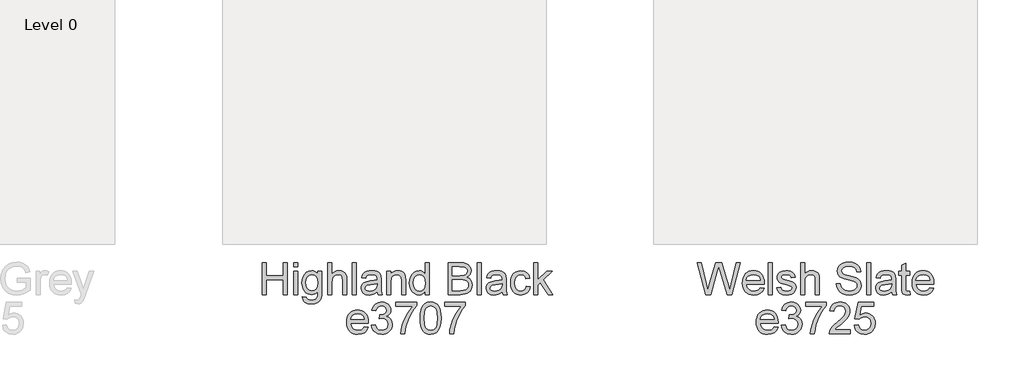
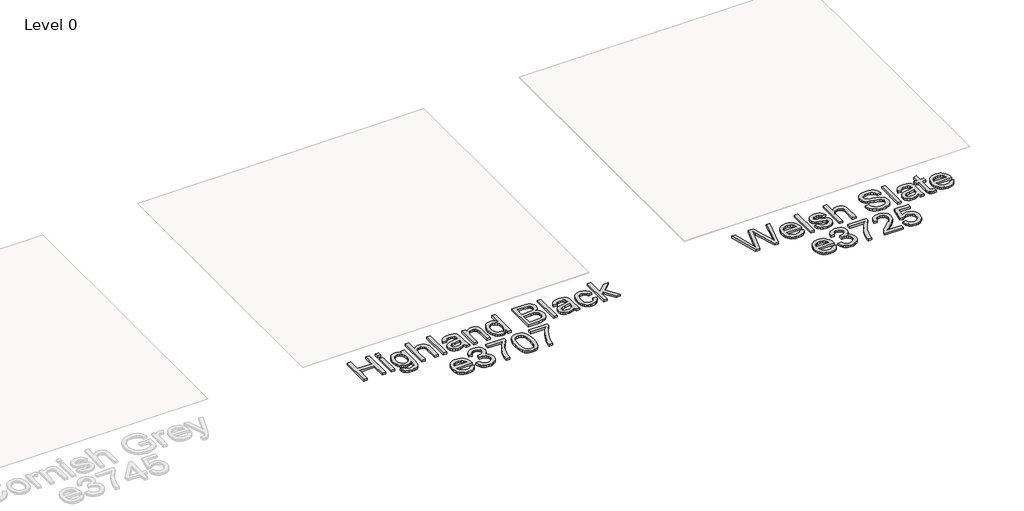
# One storey, part 3 of 3: 2 proxies.
"""IFC4 building model written with IfcOpenShell, lengths in millimetres."""

from ifc_helpers import new_model, si_unit, origin, origin_with_axes, place, context, project, spatial, polyline, outline, extrude, element, save

model = new_model("IFC4")

# Units and contexts
model_context = context("Model", 3, world=origin())
ifc_project = project(units=[si_unit("LENGTHUNIT", "METRE", prefix="MILLI")], contexts=[model_context])

# Site, building, storey
site = spatial("IfcSite", under=ifc_project)
building = spatial("IfcBuilding", under=site)
storey = spatial("IfcBuildingStorey", under=building, Name="Level 0", Elevation=0.0)

# Proxies
placement = place(None, origin())
element("IfcBuildingElementProxy", 1, Name="300mm Arial", ObjectType="300mm Arial", at=placement, inside=storey, context=model_context, shape_type="SweptSolid", body=[
    extrude(outline(polyline([(2913.8093506, 2062.8269821), (2913.8093506, 2358.2115975), (2950.7324275, 2358.2115975), (2950.7324275, 2238.2115975), (3107.6555044, 2238.2115975), (3107.6555044, 2358.2115975), (3144.5785813, 2358.2115975), (3144.5785813, 2062.8269821), (3107.6555044, 2062.8269821), (3107.6555044, 2201.2885206), (2950.7324275, 2201.2885206), (2950.7324275, 2062.8269821), (2913.8093506, 2062.8269821)])), origin_with_axes(), (0.0, 0.0, 1.0), 20.0),
    extrude(outline(polyline([(3204.5785813, 2321.2885206), (3204.5785813, 2358.2115975), (3241.5016583, 2358.2115975), (3241.5016583, 2321.2885206), (3204.5785813, 2321.2885206)])), origin_with_axes(), (0.0, 0.0, 1.0), 20.0),
    extrude(outline(polyline([(3204.5785813, 2062.8269821), (3204.5785813, 2279.7500591), (3241.5016583, 2279.7500591), (3241.5016583, 2062.8269821), (3204.5785813, 2062.8269821)])), origin_with_axes(), (0.0, 0.0, 1.0), 20.0),
    extrude(outline(polyline([(3287.6555044, 2044.3654437), (3324.5785813, 2039.7500591), (3328.6531006, 2028.2115975), (3336.5497352, 2020.2789052), (3352.0725717, 2014.1130398), (3372.3910813, 2012.0577514), (3394.0617544, 2014.3834725), (3410.1795429, 2021.360636), (3421.3574275, 2032.5385206), (3428.208389, 2047.4664052), (3430.7324275, 2090.5192898), (3418.4457688, 2078.4039052), (3404.7348313, 2069.7500591), (3389.599615, 2064.5577514), (3373.0401198, 2062.8269821), (3352.7959792, 2064.8417057), (3334.9722111, 2070.8858764), (3319.5688157, 2080.9594942), (3306.5857929, 2095.0625591), (3296.2845609, 2111.9826312), (3288.9265381, 2130.5072706), (3283.0401198, 2172.3702514), (3285.6813458, 2202.1809485), (3293.6050236, 2229.5938091), (3306.5317063, 2252.8239773), (3324.1819467, 2270.0865975), (3345.9517785, 2280.7957321), (3371.2372352, 2284.3654437), (3388.5043626, 2282.3462129), (3404.1759371, 2276.2885206), (3418.2519587, 2266.1923668), (3430.7324275, 2252.0577514), (3430.7324275, 2279.7500591), (3467.6555044, 2279.7500591), (3467.6555044, 2092.4664052), (3465.131466, 2049.2242177), (3457.5593506, 2020.7476552), (3444.5154804, 2001.8624389), (3425.5761775, 1987.3942898), (3401.1561054, 1978.1995783), (3371.6699275, 1975.1346745), (3337.3159611, 1979.4525831), (3310.2636775, 1992.4063091), (3300.0751258, 2002.130618), (3292.9109131, 2014.03191), (3288.7710393, 2028.1101853), (3287.6555044, 2044.3654437)]), holes=[polyline([(3319.9631967, 2174.8942898), (3323.9024996, 2141.0271023), (3335.7204083, 2117.7428475), (3353.4878361, 2104.2482562), (3375.2756967, 2099.7500591), (3396.9012977, 2104.2212129), (3414.7588698, 2117.6346745), (3426.7390381, 2140.6214533), (3430.7324275, 2173.8125591), (3426.6218506, 2205.8227754), (3414.2901198, 2228.8726552), (3396.1711294, 2242.7999389), (3374.6987736, 2247.4423668), (3353.6140381, 2242.8720543), (3335.9367544, 2229.1611168), (3323.9565861, 2206.453785), (3319.9631967, 2174.8942898)])]), origin_with_axes(), (0.0, 0.0, 1.0), 20.0),
    extrude(outline(polyline([(3523.0401198, 2062.8269821), (3523.0401198, 2358.2115975), (3559.9631967, 2358.2115975), (3559.9631967, 2249.6058283), (3573.5253962, 2264.81316), (3588.755264, 2275.6755398), (3605.6528001, 2282.1929677), (3624.2180044, 2284.3654437), (3646.5196871, 2281.9946504), (3665.6843506, 2274.8822706), (3680.7744948, 2263.5871985), (3690.8526198, 2248.6683283), (3696.5317063, 2228.1695302), (3698.4247352, 2200.1346745), (3698.4247352, 2062.8269821), (3661.5016583, 2062.8269821), (3661.5016583, 2196.3125591), (3658.5629563, 2219.4255398), (3649.7468506, 2235.2548668), (3635.5401198, 2244.3954918), (3616.4295429, 2247.4423668), (3600.8255765, 2245.3870783), (3586.177139, 2239.2212129), (3574.0437256, 2229.5397225), (3565.9848313, 2216.9375591), (3561.4686054, 2200.188761), (3559.9631967, 2178.0673668), (3559.9631967, 2062.8269821), (3523.0401198, 2062.8269821)])), origin_with_axes(), (0.0, 0.0, 1.0), 20.0),
    extrude(outline(polyline([(3749.193966, 2062.8269821), (3749.193966, 2358.2115975), (3786.1170429, 2358.2115975), (3786.1170429, 2062.8269821), (3749.193966, 2062.8269821)])), origin_with_axes(), (0.0, 0.0, 1.0), 20.0),
    extrude(outline(polyline([(3979.9631967, 2090.5192898), (3962.3219708, 2075.3930879), (3944.1579083, 2065.4952514), (3925.0563458, 2060.032511), (3904.6026198, 2058.2115975), (3873.7462496, 2062.5926071), (3850.9848313, 2075.735636), (3836.9493746, 2095.6935687), (3832.270889, 2120.5192898), (3834.037716, 2135.8257802), (3839.3381967, 2149.7260206), (3847.5142785, 2161.6250591), (3857.9079083, 2170.9279437), (3883.7612736, 2183.0433283), (3915.708389, 2188.5962129), (3953.4607929, 2194.4375591), (3979.7468506, 2201.2885206), (3979.9631967, 2209.5096745), (3977.4211294, 2225.9880398), (3969.7949275, 2236.7692898), (3952.739639, 2244.7740975), (3928.9776198, 2247.4423668), (3906.9824275, 2245.6665254), (3891.6218506, 2240.3390014), (3881.147091, 2230.486237), (3873.8093506, 2215.1346745), (3836.8862736, 2219.7500591), (3843.2955285, 2239.9423668), (3852.8598313, 2255.8077514), (3866.4716102, 2267.9411648), (3885.0232929, 2276.9375591), (3907.7125958, 2282.5084725), (3933.7372352, 2284.3654437), (3958.6981727, 2282.7248187), (3978.4848313, 2277.8029437), (3993.4037015, 2270.4021023), (4003.7612736, 2261.3245783), (4010.630264, 2250.1016216), (4015.083389, 2236.2644821), (4016.8862736, 2203.9567898), (4016.8862736, 2158.0192898), (4018.7612736, 2093.8726552), (4026.1170429, 2062.8269821), (3989.193966, 2062.8269821), (3979.9631967, 2090.5192898)]), holes=[polyline([(3979.9631967, 2164.3654437), (3920.395889, 2153.0433283), (3888.6290621, 2147.0577514), (3874.2420429, 2137.3221745), (3869.193966, 2123.1154437), (3871.943365, 2112.1358764), (3880.1915621, 2103.1394821), (3893.7582688, 2097.1358764), (3912.4631967, 2095.1346745), (3932.2949275, 2097.3432081), (3949.818966, 2103.9688091), (3964.0256967, 2113.7314293), (3973.9055044, 2125.3510206), (3978.286514, 2137.3221745), (3979.7468506, 2153.9087129), (3979.9631967, 2164.3654437)])]), origin_with_axes(), (0.0, 0.0, 1.0), 20.0),
    extrude(outline(polyline([(4067.6555044, 2062.8269821), (4067.6555044, 2279.7500591), (4104.5785813, 2279.7500591), (4104.5785813, 2249.4615975), (4117.4061054, 2264.7320302), (4132.8117544, 2275.6394821), (4150.7955285, 2282.1839533), (4171.3574275, 2284.3654437), (4189.5575477, 2282.6076312), (4206.225216, 2277.3341937), (4220.1254563, 2269.2031841), (4230.0232929, 2258.8726552), (4241.0930044, 2231.7212129), (4243.0401198, 2196.0240975), (4243.0401198, 2062.8269821), (4206.1170429, 2062.8269821), (4206.1170429, 2191.048136), (4201.8622352, 2223.7164052), (4195.9758169, 2233.4429677), (4186.8261775, 2240.9880398), (4175.0984131, 2245.828785), (4161.4776198, 2247.4423668), (4139.8520188, 2243.8185687), (4121.4175236, 2232.9471745), (4114.0504864, 2224.0724749), (4108.7883169, 2211.9435687), (4104.5785813, 2177.923136), (4104.5785813, 2062.8269821), (4067.6555044, 2062.8269821)])), origin_with_axes(), (0.0, 0.0, 1.0), 20.0),
    extrude(outline(polyline([(4427.6555044, 2062.8269821), (4427.6555044, 2097.6587129), (4416.6083289, 2080.4005999), (4403.2264179, 2068.0733764), (4387.5097712, 2060.6770422), (4369.458389, 2058.2115975), (4345.5881967, 2061.7813091), (4323.7372352, 2072.4904437), (4305.239639, 2089.5908043), (4291.4295429, 2112.3341937), (4282.8297833, 2139.8011408), (4279.9631967, 2171.0721745), (4282.6044227, 2201.9555879), (4290.5281006, 2229.8462129), (4303.725216, 2253.157511), (4322.1867544, 2270.3029437), (4344.5154804, 2280.8498187), (4369.3141583, 2284.3654437), (4387.3790621, 2281.8504196), (4403.3526198, 2274.3053475), (4416.8922833, 2262.7398427), (4427.6555044, 2248.1635206), (4427.6555044, 2358.2115975), (4464.5785813, 2358.2115975), (4464.5785813, 2062.8269821), (4427.6555044, 2062.8269821)]), holes=[polyline([(4316.8862736, 2171.2164052), (4321.0509371, 2137.8179677), (4333.5449275, 2114.0649629), (4351.6999756, 2099.8672466), (4372.8478121, 2095.1346745), (4393.9866342, 2099.6509004), (4411.6819467, 2113.1995783), (4423.662115, 2136.033112), (4427.6555044, 2168.4039052), (4423.5899996, 2203.7945302), (4411.3934852, 2228.3317898), (4393.2474515, 2242.6647225), (4371.333389, 2247.4423668), (4349.9692063, 2242.8540254), (4332.4631967, 2229.0890014), (4320.7805044, 2205.4441696), (4316.8862736, 2171.2164052)])]), origin_with_axes(), (0.0, 0.0, 1.0), 20.0),
    extrude(outline(polyline([(4639.9631967, 2062.8269821), (4639.9631967, 2358.2115975), (4752.6795429, 2358.2115975), (4783.6801438, 2356.0391216), (4807.8838698, 2349.5216937), (4826.4355525, 2338.4970543), (4840.4800236, 2322.8029437), (4849.3231727, 2304.3414052), (4852.270889, 2285.0144821), (4849.7919227, 2267.2290254), (4842.3550236, 2250.5072706), (4829.9061054, 2235.876862), (4812.3910813, 2224.3654437), (4833.3135573, 2213.4399629), (4848.7732929, 2196.8173668), (4858.3195669, 2175.5974148), (4861.5016583, 2150.8798668), (4859.3291823, 2130.28191), (4852.8117544, 2111.1803475), (4843.0851919, 2094.9363571), (4831.2853121, 2082.9111168), (4816.8351919, 2074.2031841), (4799.1579083, 2067.9111168), (4751.8141583, 2062.8269821), (4639.9631967, 2062.8269821)]), holes=[polyline([(4676.8862736, 2238.2115975), (4744.3141583, 2238.2115975), (4783.6891583, 2241.3846745), (4797.4722111, 2246.8564293), (4807.3790621, 2255.0505398), (4813.3556246, 2265.8408043), (4815.3478121, 2279.1010206), (4813.490841, 2291.9736168), (4807.9199275, 2303.1875591), (4798.8874756, 2311.9405639), (4786.645889, 2317.4303475), (4739.193966, 2321.2885206), (4676.8862736, 2321.2885206), (4676.8862736, 2238.2115975)]), polyline([(4676.8862736, 2099.7500591), (4752.6074275, 2099.7500591), (4780.0112736, 2101.1923668), (4803.1963698, 2109.2332321), (4818.5569467, 2125.6394821), (4823.0731727, 2137.2320302), (4824.5785813, 2150.5192898), (4822.8117544, 2165.9519821), (4817.5112736, 2179.2212129), (4808.2534611, 2189.5968139), (4794.614639, 2196.3486168), (4775.2967304, 2200.0535446), (4749.0016583, 2201.2885206), (4676.8862736, 2201.2885206), (4676.8862736, 2099.7500591)])]), origin_with_axes(), (0.0, 0.0, 1.0), 20.0),
    extrude(outline(polyline([(4907.6555044, 2062.8269821), (4907.6555044, 2358.2115975), (4944.5785813, 2358.2115975), (4944.5785813, 2062.8269821), (4907.6555044, 2062.8269821)])), origin_with_axes(), (0.0, 0.0, 1.0), 20.0),
    extrude(outline(polyline([(5138.4247352, 2090.5192898), (5120.7835092, 2075.3930879), (5102.6194467, 2065.4952514), (5083.5178842, 2060.032511), (5063.0641583, 2058.2115975), (5032.2077881, 2062.5926071), (5009.4463698, 2075.735636), (4995.4109131, 2095.6935687), (4990.7324275, 2120.5192898), (4992.4992544, 2135.8257802), (4997.7997352, 2149.7260206), (5005.9758169, 2161.6250591), (5016.3694467, 2170.9279437), (5042.2228121, 2183.0433283), (5074.1699275, 2188.5962129), (5111.9223313, 2194.4375591), (5138.208389, 2201.2885206), (5138.4247352, 2209.5096745), (5135.8826679, 2225.9880398), (5128.256466, 2236.7692898), (5111.2011775, 2244.7740975), (5087.4391583, 2247.4423668), (5065.443966, 2245.6665254), (5050.083389, 2240.3390014), (5039.6086294, 2230.486237), (5032.270889, 2215.1346745), (4995.3478121, 2219.7500591), (5001.7570669, 2239.9423668), (5011.3213698, 2255.8077514), (5024.9331486, 2267.9411648), (5043.4848313, 2276.9375591), (5066.1741342, 2282.5084725), (5092.1987736, 2284.3654437), (5117.1597111, 2282.7248187), (5136.9463698, 2277.8029437), (5151.86524, 2270.4021023), (5162.2228121, 2261.3245783), (5169.0918025, 2250.1016216), (5173.5449275, 2236.2644821), (5175.3478121, 2203.9567898), (5175.3478121, 2158.0192898), (5177.2228121, 2093.8726552), (5184.5785813, 2062.8269821), (5147.6555044, 2062.8269821), (5138.4247352, 2090.5192898)]), holes=[polyline([(5138.4247352, 2164.3654437), (5078.8574275, 2153.0433283), (5047.0906006, 2147.0577514), (5032.7035813, 2137.3221745), (5027.6555044, 2123.1154437), (5030.4049035, 2112.1358764), (5038.6531006, 2103.1394821), (5052.2198073, 2097.1358764), (5070.9247352, 2095.1346745), (5090.756466, 2097.3432081), (5108.2805044, 2103.9688091), (5122.4872352, 2113.7314293), (5132.3670429, 2125.3510206), (5136.7480525, 2137.3221745), (5138.208389, 2153.9087129), (5138.4247352, 2164.3654437)])]), origin_with_axes(), (0.0, 0.0, 1.0), 20.0),
    extrude(outline(polyline([(5364.5785813, 2141.2885206), (5401.5016583, 2136.673136), (5391.2071871, 2103.8335927), (5371.8622352, 2079.016886), (5345.287716, 2063.4129196), (5313.3045429, 2058.2115975), (5292.5961595, 2060.0257502), (5274.0287015, 2065.4682081), (5257.6021691, 2074.5389713), (5243.3165621, 2087.2380398), (5231.7533109, 2103.3265314), (5223.4938458, 2122.5655639), (5218.5381667, 2144.9551372), (5216.8862736, 2170.4952514), (5219.7077881, 2203.3528235), (5228.1723313, 2231.829386), (5242.4151198, 2254.8251793), (5262.5713698, 2271.2404437), (5286.6849515, 2281.0841937), (5312.7997352, 2284.3654437), (5343.9986535, 2279.8582321), (5368.9415621, 2266.3365975), (5386.8351919, 2244.5216937), (5396.8862736, 2215.1346745), (5359.9631967, 2210.5192898), (5353.2654804, 2226.6280639), (5342.8357929, 2238.1755398), (5329.2510573, 2245.12566), (5313.0881967, 2247.4423668), (5289.2270188, 2242.8810687), (5270.287716, 2229.1971745), (5257.9289419, 2205.6515014), (5253.8093506, 2171.5048668), (5257.8387977, 2136.8984966), (5269.927139, 2113.2716937), (5288.5238938, 2099.6689293), (5312.0785813, 2095.1346745), (5331.1981727, 2097.9652033), (5346.8742544, 2106.4567898), (5358.2774996, 2120.8257802), (5364.5785813, 2141.2885206)])), origin_with_axes(), (0.0, 0.0, 1.0), 20.0),
    extrude(outline(polyline([(5433.8093506, 2062.8269821), (5433.8093506, 2358.2115975), (5470.7324275, 2358.2115975), (5470.7324275, 2199.485636), (5553.520889, 2279.7500591), (5604.5785813, 2279.7500591), (5520.7805044, 2198.4760206), (5609.193966, 2062.8269821), (5566.068966, 2062.8269821), (5494.3141583, 2172.8029437), (5470.7324275, 2149.9423668), (5470.7324275, 2062.8269821), (5433.8093506, 2062.8269821)])), origin_with_axes(), (0.0, 0.0, 1.0), 20.0),
    extrude(outline(polyline([(3861.8381967, 1762.8269821), (3898.0401198, 1758.2115975), (3884.9962496, 1730.9339533), (3864.1819467, 1710.5433283), (3836.0659611, 1697.8329918), (3801.1170429, 1693.5962129), (3778.2068866, 1695.4238872), (3757.7937256, 1700.90691), (3739.8775597, 1710.0452814), (3724.458389, 1722.8390014), (3712.0590501, 1738.9320002), (3703.2023794, 1757.9682081), (3697.888377, 1779.9476252), (3696.1170429, 1804.8702514), (3697.9064059, 1830.6379797), (3703.2744948, 1853.3498187), (3712.2213097, 1873.0057682), (3724.7468506, 1889.6058283), (3740.1254563, 1902.7939293), (3757.631466, 1912.2140014), (3777.2648794, 1917.8660446), (3799.0256967, 1919.7500591), (3820.0856426, 1917.8705519), (3839.130865, 1912.2320302), (3856.1613638, 1902.8344942), (3871.177139, 1889.6779437), (3883.4345008, 1873.1139413), (3892.1897592, 1853.4940495), (3897.4429143, 1830.8182682), (3899.193966, 1805.0865975), (3898.9776198, 1795.1346745), (3733.0401198, 1795.1346745), (3739.4313458, 1767.4964533), (3754.2781006, 1747.1779437), (3775.7053842, 1734.6839533), (3801.8381967, 1730.5192898), (3821.489639, 1732.4483764), (3838.0401198, 1738.235636), (3851.489639, 1748.2416456), (3861.8381967, 1762.8269821)]), holes=[polyline([(3733.0401198, 1832.0577514), (3862.270889, 1832.0577514), (3857.2768986, 1851.5649629), (3847.4872352, 1865.5192898), (3825.9607929, 1878.5000591), (3798.881466, 1882.8269821), (3773.9926438, 1879.3744581), (3753.412716, 1869.016886), (3739.1068265, 1852.8720543), (3733.0401198, 1832.0577514)])]), origin_with_axes(), (0.0, 0.0, 1.0), 20.0),
    extrude(outline(polyline([(3926.8862736, 1776.673136), (3963.8093506, 1781.2885206), (3972.0755765, 1758.0853956), (3984.1819467, 1742.4183283), (4000.7234131, 1733.4940495), (4022.2949275, 1730.5192898), (4047.6074275, 1734.6118379), (4067.1506967, 1746.8894821), (4079.6446871, 1765.2067898), (4083.8093506, 1787.4183283), (4079.6807448, 1808.5030639), (4067.2949275, 1825.6034245), (4048.5449275, 1836.9345543), (4025.3237736, 1840.7115975), (3999.4343506, 1836.673136), (4003.5449275, 1873.5962129), (4009.458389, 1873.1635206), (4031.5797833, 1875.813761), (4051.3574275, 1883.7644821), (4065.3117544, 1897.2140014), (4069.9631967, 1916.360636), (4066.5918025, 1932.3071504), (4056.4776198, 1945.2428475), (4041.0449275, 1953.8155639), (4021.7180044, 1956.673136), (4002.3550236, 1953.7885206), (3986.5256967, 1945.1346745), (3974.9692063, 1930.7115975), (3968.4247352, 1910.5192898), (3931.5016583, 1915.1346745), (3942.3730525, 1948.2897225), (3961.7180044, 1973.0433283), (3988.1843506, 1988.4579918), (4020.4199275, 1993.5962129), (4043.6320669, 1991.06316), (4064.9511775, 1983.4640014), (4082.9259371, 1971.4748187), (4096.1050236, 1955.7716937), (4104.1909611, 1937.6797466), (4106.8862736, 1918.5240975), (4104.3261775, 1900.6755398), (4096.645889, 1884.485636), (4083.9535813, 1870.6935687), (4066.3574275, 1860.0385206), (4089.4704083, 1850.6995783), (4106.5978121, 1834.798136), (4117.1987736, 1813.1995783), (4120.7324275, 1786.7692898), (4118.9656006, 1768.0373187), (4113.6651198, 1750.7837129), (4104.8309852, 1735.0084725), (4092.4631967, 1720.7115975), (4077.3955886, 1708.8486168), (4060.4619948, 1700.3750591), (4041.6624155, 1695.2909245), (4020.9968506, 1693.5962129), (3985.2997352, 1699.3834725), (3969.9391583, 1706.6175471), (3956.2372352, 1716.7452514), (3944.748353, 1729.1716336), (3936.0268986, 1743.3017418), (3926.8862736, 1776.673136)])), origin_with_axes(), (0.0, 0.0, 1.0), 20.0),
    extrude(outline(polyline([(4153.0401198, 1952.0577514), (4153.0401198, 1988.9808283), (4346.8862736, 1988.9808283), (4346.8862736, 1959.1250591), (4319.2570669, 1924.158112), (4291.8982929, 1879.6899629), (4267.7666823, 1829.7771023), (4249.818966, 1778.4760206), (4241.020889, 1740.0926071), (4236.1170429, 1698.2115975), (4199.193966, 1698.2115975), (4203.1873554, 1736.2704918), (4213.8694467, 1781.5048668), (4230.9517785, 1829.4525831), (4254.145889, 1875.6515014), (4281.225216, 1917.4153235), (4309.9631967, 1952.0577514), (4153.0401198, 1952.0577514)])), origin_with_axes(), (0.0, 0.0, 1.0), 20.0),
    extrude(outline(polyline([(4379.193966, 1843.5240975), (4381.9073073, 1890.8047466), (4390.0473313, 1928.5120783), (4403.5329083, 1957.2230158), (4422.2829083, 1977.5144821), (4446.4325477, 1989.5757802), (4476.1170429, 1993.5962129), (4498.8694467, 1991.2164052), (4519.2420429, 1984.0769821), (4536.2793025, 1972.4573908), (4549.0256967, 1956.6370783), (4558.6531006, 1936.751261), (4566.333389, 1912.9351552), (4571.3634371, 1882.6917658), (4573.0401198, 1843.5240975), (4570.3538217, 1796.5138812), (4562.2949275, 1758.8966937), (4548.8904804, 1730.1587129), (4530.1675236, 1709.7861168), (4505.9637977, 1697.6436889), (4476.1170429, 1693.5962129), (4455.7805044, 1695.3540254), (4437.7516583, 1700.6274629), (4422.0305044, 1709.4165254), (4408.6170429, 1721.7212129), (4395.7444467, 1743.9643019), (4386.5497352, 1771.6791456), (4381.0329083, 1804.8657442), (4379.193966, 1843.5240975)]), holes=[polyline([(4416.1170429, 1843.5962129), (4420.443966, 1785.516285), (4425.8526198, 1765.6507502), (4433.4247352, 1751.9015014), (4452.7516583, 1735.8648427), (4476.1170429, 1730.5192898), (4499.4824275, 1735.8828716), (4518.8093506, 1751.9736168), (4526.381466, 1765.7454016), (4531.7901198, 1785.6064293), (4536.1170429, 1843.5962129), (4531.9343506, 1900.3690495), (4526.7059852, 1920.1692297), (4519.3862736, 1934.2452514), (4500.0954083, 1951.0661648), (4475.6843506, 1956.673136), (4452.5713698, 1951.7332321), (4434.0016583, 1936.9135206), (4426.177139, 1921.5890014), (4420.5881967, 1900.9279437), (4416.1170429, 1843.5962129)])]), origin_with_axes(), (0.0, 0.0, 1.0), 20.0),
    extrude(outline(polyline([(4605.3478121, 1952.0577514), (4605.3478121, 1988.9808283), (4799.193966, 1988.9808283), (4799.193966, 1959.1250591), (4771.5647592, 1924.158112), (4744.2059852, 1879.6899629), (4720.0743746, 1829.7771023), (4702.1266583, 1778.4760206), (4693.3285813, 1740.0926071), (4688.4247352, 1698.2115975), (4651.5016583, 1698.2115975), (4655.4950477, 1736.2704918), (4666.177139, 1781.5048668), (4683.2594708, 1829.4525831), (4706.4535813, 1875.6515014), (4733.5329083, 1917.4153235), (4762.270889, 1952.0577514), (4605.3478121, 1952.0577514)])), origin_with_axes(), (0.0, 0.0, 1.0), 20.0),
])
element("IfcBuildingElementProxy", 2, Name="300mm Arial", ObjectType="300mm Arial", at=placement, inside=storey, context=model_context, shape_type="SweptSolid", body=[
    extrude(outline(polyline([(7027.4391583, 2062.8269821), (6946.8862736, 2358.2115975), (6984.9631967, 2358.2115975), (7031.693966, 2164.0769821), (7046.1170429, 2104.1490975), (7061.5497352, 2157.1539052), (7120.1074275, 2358.2115975), (7174.9872352, 2358.2115975), (7217.5353121, 2212.4664052), (7235.7624756, 2158.3798668), (7249.193966, 2104.1490975), (7263.1843506, 2162.3462129), (7310.3478121, 2358.2115975), (7348.4247352, 2358.2115975), (7267.7997352, 2062.8269821), (7228.3526198, 2062.8269821), (7157.5353121, 2290.7115975), (7147.6555044, 2322.5144821), (7136.5497352, 2284.2212129), (7072.006466, 2062.8269821), (7027.4391583, 2062.8269821)])), origin_with_axes(), (0.0, 0.0, 1.0), 20.0),
    extrude(outline(polyline([(7532.6074275, 2127.4423668), (7568.8093506, 2122.8269821), (7555.7654804, 2095.5493379), (7534.9511775, 2075.1587129), (7506.8351919, 2062.4483764), (7471.8862736, 2058.2115975), (7448.9761174, 2060.0392718), (7428.5629563, 2065.5222946), (7410.6467905, 2074.660666), (7395.2276198, 2087.454386), (7382.8282809, 2103.5473848), (7373.9716102, 2122.5835927), (7368.6576078, 2144.5630098), (7366.8862736, 2169.485636), (7368.6756366, 2195.2533644), (7374.0437256, 2217.9652033), (7382.9905405, 2237.6211528), (7395.5160813, 2254.2212129), (7410.8946871, 2267.4093139), (7428.4006967, 2276.829386), (7448.0341102, 2282.4814293), (7469.7949275, 2284.3654437), (7490.8548734, 2282.4859365), (7509.9000958, 2276.8474148), (7526.9305946, 2267.4498788), (7541.9463698, 2254.2933283), (7554.2037316, 2237.7293259), (7562.95899, 2218.1094341), (7568.212145, 2195.4336528), (7569.9631967, 2169.7019821), (7569.7468506, 2159.7500591), (7403.8093506, 2159.7500591), (7410.2005765, 2132.1118379), (7425.0473313, 2111.7933283), (7446.474615, 2099.2993379), (7472.6074275, 2095.1346745), (7492.2588698, 2097.063761), (7508.8093506, 2102.8510206), (7522.2588698, 2112.8570302), (7532.6074275, 2127.4423668)]), holes=[polyline([(7403.8093506, 2196.673136), (7533.0401198, 2196.673136), (7528.0461294, 2216.1803475), (7518.256466, 2230.1346745), (7496.7300236, 2243.1154437), (7469.6506967, 2247.4423668), (7444.7618746, 2243.9898427), (7424.1819467, 2233.6322706), (7409.8760573, 2217.4874389), (7403.8093506, 2196.673136)])]), origin_with_axes(), (0.0, 0.0, 1.0), 20.0),
    extrude(outline(polyline([(7606.8862736, 2062.8269821), (7606.8862736, 2358.2115975), (7643.8093506, 2358.2115975), (7643.8093506, 2062.8269821), (7606.8862736, 2062.8269821)])), origin_with_axes(), (0.0, 0.0, 1.0), 20.0),
    extrude(outline(polyline([(7685.3478121, 2127.4423668), (7722.270889, 2132.0577514), (7728.0942063, 2116.2644821), (7739.3622352, 2104.6539052), (7756.147091, 2097.5144821), (7778.520889, 2095.1346745), (7800.6242544, 2097.3161648), (7816.1651198, 2103.860636), (7825.3598313, 2113.3438091), (7828.4247352, 2124.3414052), (7825.3418025, 2133.7524629), (7816.0930044, 2140.9279437), (7778.0881967, 2151.4567898), (7722.4872352, 2169.5216937), (7708.4157208, 2178.5992177), (7698.2204083, 2190.6154437), (7692.0274996, 2204.8041456), (7689.9631967, 2220.3990975), (7691.6218506, 2234.704987), (7696.5978121, 2247.9111168), (7704.4403602, 2259.4946504), (7714.6987736, 2268.9327514), (7738.1723313, 2279.8582321), (7769.9391583, 2284.3654437), (7793.9716102, 2282.5535446), (7814.8670429, 2277.1178475), (7831.6699275, 2268.5902033), (7843.4247352, 2257.5024629), (7851.2131967, 2243.0343139), (7856.1170429, 2224.3654437), (7819.193966, 2219.7500591), (7814.5335092, 2231.3696504), (7805.3117544, 2240.1226552), (7791.4385573, 2245.6124389), (7772.8237736, 2247.4423668), (7751.6218506, 2245.6935687), (7737.4872352, 2240.4471745), (7729.536514, 2232.8750591), (7726.8862736, 2224.1490975), (7731.2853121, 2213.4039052), (7745.0593506, 2205.2548668), (7776.8622352, 2197.3942898), (7831.0569467, 2180.0144821), (7845.3718506, 2171.7031841), (7856.225216, 2160.3269821), (7863.0671631, 2145.8498187), (7865.3478121, 2128.235636), (7862.6705285, 2110.0265014), (7854.6386775, 2092.8990975), (7841.5587496, 2078.1965735), (7823.7372352, 2067.2620783), (7802.2107929, 2060.4742177), (7778.0160813, 2058.2115975), (7740.786514, 2062.5745783), (7713.6170429, 2075.6635206), (7695.4800236, 2097.3341937), (7685.3478121, 2127.4423668)])), origin_with_axes(), (0.0, 0.0, 1.0), 20.0),
    extrude(outline(polyline([(7906.8862736, 2062.8269821), (7906.8862736, 2358.2115975), (7943.8093506, 2358.2115975), (7943.8093506, 2249.6058283), (7957.3715501, 2264.81316), (7972.6014179, 2275.6755398), (7989.4989539, 2282.1929677), (8008.0641583, 2284.3654437), (8030.365841, 2281.9946504), (8049.5305044, 2274.8822706), (8064.6206486, 2263.5871985), (8074.6987736, 2248.6683283), (8080.3778602, 2228.1695302), (8082.270889, 2200.1346745), (8082.270889, 2062.8269821), (8045.3478121, 2062.8269821), (8045.3478121, 2196.3125591), (8042.4091102, 2219.4255398), (8033.5930044, 2235.2548668), (8019.3862736, 2244.3954918), (8000.2756967, 2247.4423668), (7984.6717304, 2245.3870783), (7970.0232929, 2239.2212129), (7957.8898794, 2229.5397225), (7949.8309852, 2216.9375591), (7945.3147592, 2200.188761), (7943.8093506, 2178.0673668), (7943.8093506, 2062.8269821), (7906.8862736, 2062.8269821)])), origin_with_axes(), (0.0, 0.0, 1.0), 20.0),
    extrude(outline(polyline([(8239.193966, 2164.3654437), (8276.1170429, 2164.3654437), (8280.3538217, 2143.87566), (8288.0160813, 2127.4063091), (8299.9692063, 2114.3353956), (8317.0785813, 2104.0409245), (8337.9920429, 2097.361237), (8361.3574275, 2095.1346745), (8381.928341, 2096.8203716), (8399.9391583, 2101.8774629), (8414.5335092, 2109.8822706), (8424.8550236, 2120.4111168), (8430.9938458, 2132.4994581), (8433.0401198, 2145.1827514), (8431.5076679, 2157.5415254), (8426.9103121, 2168.2236168), (8417.5713698, 2177.3371985), (8401.8141583, 2184.9904437), (8348.052139, 2199.0890014), (8312.7606727, 2208.4189293), (8290.1795429, 2217.298136), (8271.7991342, 2229.720011), (8258.7732929, 2244.7740975), (8251.0118746, 2262.1358764), (8248.4247352, 2281.4808283), (8251.6248554, 2303.1064293), (8261.225216, 2323.2716937), (8276.9734131, 2340.3630398), (8298.6170429, 2352.766886), (8324.5966102, 2360.3119581), (8353.3526198, 2362.8269821), (8384.506466, 2360.1947706), (8411.7660813, 2352.298136), (8434.1579083, 2339.2993379), (8450.708389, 2321.360636), (8461.1831486, 2299.5998187), (8465.3478121, 2275.1346745), (8428.4247352, 2275.1346745), (8421.645889, 2297.1659245), (8407.5112736, 2313.0673668), (8385.4259371, 2322.6947706), (8354.7949275, 2325.9039052), (8323.442764, 2322.7308283), (8301.9343506, 2313.2115975), (8289.4944467, 2299.2031841), (8285.3478121, 2282.5625591), (8288.286514, 2268.3738571), (8297.1026198, 2256.9615975), (8317.943966, 2246.7572706), (8357.3910813, 2236.3365975), (8422.7276198, 2217.8029437), (8443.7762977, 2204.407511), (8458.4607929, 2187.8750591), (8467.0875958, 2168.3858764), (8469.9631967, 2146.1202514), (8466.6549035, 2123.3588331), (8456.7300236, 2101.9495783), (8440.5942063, 2083.5240975), (8418.6531006, 2069.7140014), (8392.2678842, 2061.0871985), (8362.7997352, 2058.2115975), (8326.6248554, 2061.3125591), (8296.850216, 2070.6154437), (8273.1332688, 2086.1563091), (8255.131466, 2107.9712129), (8243.5749756, 2134.5457321), (8239.193966, 2164.3654437)])), origin_with_axes(), (0.0, 0.0, 1.0), 20.0),
    extrude(outline(polyline([(8520.7324275, 2062.8269821), (8520.7324275, 2358.2115975), (8557.6555044, 2358.2115975), (8557.6555044, 2062.8269821), (8520.7324275, 2062.8269821)])), origin_with_axes(), (0.0, 0.0, 1.0), 20.0),
    extrude(outline(polyline([(8751.5016583, 2090.5192898), (8733.8604323, 2075.3930879), (8715.6963698, 2065.4952514), (8696.5948073, 2060.032511), (8676.1410813, 2058.2115975), (8645.2847111, 2062.5926071), (8622.5232929, 2075.735636), (8608.4878361, 2095.6935687), (8603.8093506, 2120.5192898), (8605.5761775, 2135.8257802), (8610.8766583, 2149.7260206), (8619.05274, 2161.6250591), (8629.4463698, 2170.9279437), (8655.2997352, 2183.0433283), (8687.2468506, 2188.5962129), (8724.9992544, 2194.4375591), (8751.2853121, 2201.2885206), (8751.5016583, 2209.5096745), (8748.959591, 2225.9880398), (8741.333389, 2236.7692898), (8724.2781006, 2244.7740975), (8700.5160813, 2247.4423668), (8678.520889, 2245.6665254), (8663.1603121, 2240.3390014), (8652.6855525, 2230.486237), (8645.3478121, 2215.1346745), (8608.4247352, 2219.7500591), (8614.83399, 2239.9423668), (8624.3982929, 2255.8077514), (8638.0100717, 2267.9411648), (8656.5617544, 2276.9375591), (8679.2510573, 2282.5084725), (8705.2756967, 2284.3654437), (8730.2366342, 2282.7248187), (8750.0232929, 2277.8029437), (8764.9421631, 2270.4021023), (8775.2997352, 2261.3245783), (8782.1687256, 2250.1016216), (8786.6218506, 2236.2644821), (8788.4247352, 2203.9567898), (8788.4247352, 2158.0192898), (8790.2997352, 2093.8726552), (8797.6555044, 2062.8269821), (8760.7324275, 2062.8269821), (8751.5016583, 2090.5192898)]), holes=[polyline([(8751.5016583, 2164.3654437), (8691.9343506, 2153.0433283), (8660.1675236, 2147.0577514), (8645.7805044, 2137.3221745), (8640.7324275, 2123.1154437), (8643.4818265, 2112.1358764), (8651.7300236, 2103.1394821), (8665.2967304, 2097.1358764), (8684.0016583, 2095.1346745), (8703.833389, 2097.3432081), (8721.3574275, 2103.9688091), (8735.5641583, 2113.7314293), (8745.443966, 2125.3510206), (8749.8249756, 2137.3221745), (8751.2853121, 2153.9087129), (8751.5016583, 2164.3654437)])]), origin_with_axes(), (0.0, 0.0, 1.0), 20.0),
    extrude(outline(polyline([(8917.6555044, 2093.6202514), (8922.270889, 2061.7452514), (8894.6506967, 2058.2115975), (8876.928341, 2059.7440495), (8863.7131967, 2064.3414052), (8854.3742544, 2071.4267418), (8848.2805044, 2080.423136), (8844.927139, 2095.8738571), (8843.8093506, 2122.3221745), (8843.8093506, 2242.8269821), (8816.1170429, 2242.8269821), (8816.1170429, 2279.7500591), (8843.8093506, 2279.7500591), (8843.8093506, 2332.4664052), (8880.7324275, 2354.173136), (8880.7324275, 2279.7500591), (8917.6555044, 2279.7500591), (8917.6555044, 2242.8269821), (8880.7324275, 2242.8269821), (8880.7324275, 2123.4039052), (8882.6795429, 2104.3654437), (8888.989639, 2097.6226552), (8901.5737736, 2095.1346745), (8917.6555044, 2093.6202514)])), origin_with_axes(), (0.0, 0.0, 1.0), 20.0),
    extrude(outline(polyline([(9106.4535813, 2127.4423668), (9142.6555044, 2122.8269821), (9129.6116342, 2095.5493379), (9108.7973313, 2075.1587129), (9080.6813458, 2062.4483764), (9045.7324275, 2058.2115975), (9022.8222712, 2060.0392718), (9002.4091102, 2065.5222946), (8984.4929443, 2074.660666), (8969.0737736, 2087.454386), (8956.6744347, 2103.5473848), (8947.817764, 2122.5835927), (8942.5037616, 2144.5630098), (8940.7324275, 2169.485636), (8942.5217905, 2195.2533644), (8947.8898794, 2217.9652033), (8956.8366943, 2237.6211528), (8969.3622352, 2254.2212129), (8984.740841, 2267.4093139), (9002.2468506, 2276.829386), (9021.880264, 2282.4814293), (9043.6410813, 2284.3654437), (9064.7010273, 2282.4859365), (9083.7462496, 2276.8474148), (9100.7767484, 2267.4498788), (9115.7925236, 2254.2933283), (9128.0498854, 2237.7293259), (9136.8051438, 2218.1094341), (9142.0582989, 2195.4336528), (9143.8093506, 2169.7019821), (9143.5930044, 2159.7500591), (8977.6555044, 2159.7500591), (8984.0467304, 2132.1118379), (8998.8934852, 2111.7933283), (9020.3207688, 2099.2993379), (9046.4535813, 2095.1346745), (9066.1050236, 2097.063761), (9082.6555044, 2102.8510206), (9096.1050236, 2112.8570302), (9106.4535813, 2127.4423668)]), holes=[polyline([(8977.6555044, 2196.673136), (9106.8862736, 2196.673136), (9101.8922833, 2216.1803475), (9092.1026198, 2230.1346745), (9070.5761775, 2243.1154437), (9043.4968506, 2247.4423668), (9018.6080285, 2243.9898427), (8998.0281006, 2233.6322706), (8983.7222111, 2217.4874389), (8977.6555044, 2196.673136)])]), origin_with_axes(), (0.0, 0.0, 1.0), 20.0),
    extrude(outline(polyline([(7661.8381967, 1762.8269821), (7698.0401198, 1758.2115975), (7684.9962496, 1730.9339533), (7664.1819467, 1710.5433283), (7636.0659611, 1697.8329918), (7601.1170429, 1693.5962129), (7578.2068866, 1695.4238872), (7557.7937256, 1700.90691), (7539.8775597, 1710.0452814), (7524.458389, 1722.8390014), (7512.0590501, 1738.9320002), (7503.2023794, 1757.9682081), (7497.888377, 1779.9476252), (7496.1170429, 1804.8702514), (7497.9064059, 1830.6379797), (7503.2744948, 1853.3498187), (7512.2213097, 1873.0057682), (7524.7468506, 1889.6058283), (7540.1254563, 1902.7939293), (7557.631466, 1912.2140014), (7577.2648794, 1917.8660446), (7599.0256967, 1919.7500591), (7620.0856426, 1917.8705519), (7639.130865, 1912.2320302), (7656.1613638, 1902.8344942), (7671.177139, 1889.6779437), (7683.4345008, 1873.1139413), (7692.1897592, 1853.4940495), (7697.4429143, 1830.8182682), (7699.193966, 1805.0865975), (7698.9776198, 1795.1346745), (7533.0401198, 1795.1346745), (7539.4313458, 1767.4964533), (7554.2781006, 1747.1779437), (7575.7053842, 1734.6839533), (7601.8381967, 1730.5192898), (7621.489639, 1732.4483764), (7638.0401198, 1738.235636), (7651.489639, 1748.2416456), (7661.8381967, 1762.8269821)]), holes=[polyline([(7533.0401198, 1832.0577514), (7662.270889, 1832.0577514), (7657.2768986, 1851.5649629), (7647.4872352, 1865.5192898), (7625.9607929, 1878.5000591), (7598.881466, 1882.8269821), (7573.9926438, 1879.3744581), (7553.412716, 1869.016886), (7539.1068265, 1852.8720543), (7533.0401198, 1832.0577514)])]), origin_with_axes(), (0.0, 0.0, 1.0), 20.0),
    extrude(outline(polyline([(7726.8862736, 1776.673136), (7763.8093506, 1781.2885206), (7772.0755765, 1758.0853956), (7784.1819467, 1742.4183283), (7800.7234131, 1733.4940495), (7822.2949275, 1730.5192898), (7847.6074275, 1734.6118379), (7867.1506967, 1746.8894821), (7879.6446871, 1765.2067898), (7883.8093506, 1787.4183283), (7879.6807448, 1808.5030639), (7867.2949275, 1825.6034245), (7848.5449275, 1836.9345543), (7825.3237736, 1840.7115975), (7799.4343506, 1836.673136), (7803.5449275, 1873.5962129), (7809.458389, 1873.1635206), (7831.5797833, 1875.813761), (7851.3574275, 1883.7644821), (7865.3117544, 1897.2140014), (7869.9631967, 1916.360636), (7866.5918025, 1932.3071504), (7856.4776198, 1945.2428475), (7841.0449275, 1953.8155639), (7821.7180044, 1956.673136), (7802.3550236, 1953.7885206), (7786.5256967, 1945.1346745), (7774.9692063, 1930.7115975), (7768.4247352, 1910.5192898), (7731.5016583, 1915.1346745), (7742.3730525, 1948.2897225), (7761.7180044, 1973.0433283), (7788.1843506, 1988.4579918), (7820.4199275, 1993.5962129), (7843.6320669, 1991.06316), (7864.9511775, 1983.4640014), (7882.9259371, 1971.4748187), (7896.1050236, 1955.7716937), (7904.1909611, 1937.6797466), (7906.8862736, 1918.5240975), (7904.3261775, 1900.6755398), (7896.645889, 1884.485636), (7883.9535813, 1870.6935687), (7866.3574275, 1860.0385206), (7889.4704083, 1850.6995783), (7906.5978121, 1834.798136), (7917.1987736, 1813.1995783), (7920.7324275, 1786.7692898), (7918.9656006, 1768.0373187), (7913.6651198, 1750.7837129), (7904.8309852, 1735.0084725), (7892.4631967, 1720.7115975), (7877.3955886, 1708.8486168), (7860.4619948, 1700.3750591), (7841.6624155, 1695.2909245), (7820.9968506, 1693.5962129), (7785.2997352, 1699.3834725), (7769.9391583, 1706.6175471), (7756.2372352, 1716.7452514), (7744.748353, 1729.1716336), (7736.0268986, 1743.3017418), (7726.8862736, 1776.673136)])), origin_with_axes(), (0.0, 0.0, 1.0), 20.0),
    extrude(outline(polyline([(7953.0401198, 1952.0577514), (7953.0401198, 1988.9808283), (8146.8862736, 1988.9808283), (8146.8862736, 1959.1250591), (8119.2570669, 1924.158112), (8091.8982929, 1879.6899629), (8067.7666823, 1829.7771023), (8049.818966, 1778.4760206), (8041.020889, 1740.0926071), (8036.1170429, 1698.2115975), (7999.193966, 1698.2115975), (8003.1873554, 1736.2704918), (8013.8694467, 1781.5048668), (8030.9517785, 1829.4525831), (8054.145889, 1875.6515014), (8081.225216, 1917.4153235), (8109.9631967, 1952.0577514), (7953.0401198, 1952.0577514)])), origin_with_axes(), (0.0, 0.0, 1.0), 20.0),
    extrude(outline(polyline([(8368.4247352, 1735.1346745), (8368.4247352, 1698.2115975), (8174.5785813, 1698.2115975), (8178.5449275, 1723.6683283), (8187.6494948, 1743.56316), (8200.9728121, 1762.8630398), (8220.2456486, 1783.064362), (8247.1987736, 1805.6635206), (8287.0425236, 1841.0541456), (8310.9487736, 1867.1779437), (8322.9018986, 1888.3798668), (8326.8862736, 1909.0048668), (8323.1272592, 1927.4934485), (8311.850216, 1942.8630398), (8294.5154804, 1953.220612), (8272.583389, 1956.673136), (8249.5515381, 1953.3017418), (8231.6579083, 1943.1875591), (8220.1104323, 1927.1238571), (8216.1170429, 1905.9039052), (8179.193966, 1910.5192898), (8188.1452881, 1946.2344341), (8196.5219407, 1960.4817297), (8207.4992544, 1972.3221745), (8220.8248253, 1981.6295663), (8236.2462496, 1988.2777033), (8273.3766583, 1993.5962129), (8293.1655705, 1992.1178475), (8310.7774996, 1987.6827514), (8326.2124455, 1980.2909245), (8339.4704083, 1969.9423668), (8350.1186955, 1957.4033043), (8357.724615, 1943.4399629), (8362.2881667, 1928.0523427), (8363.8093506, 1911.2404437), (8362.1687256, 1893.5811889), (8357.2468506, 1876.2284245), (8348.5118746, 1858.5781841), (8335.4319467, 1840.0265014), (8314.5815861, 1817.8780639), (8282.5353121, 1789.4375591), (8240.0593506, 1753.9207321), (8223.4006967, 1735.1346745), (8368.4247352, 1735.1346745)])), origin_with_axes(), (0.0, 0.0, 1.0), 20.0),
    extrude(outline(polyline([(8405.3478121, 1776.673136), (8442.270889, 1781.2885206), (8449.0497352, 1759.1220543), (8460.8766583, 1743.2476552), (8477.6975717, 1733.7013812), (8499.458389, 1730.5192898), (8525.9247352, 1734.9453716), (8545.756466, 1748.2236168), (8558.1422833, 1768.8215735), (8562.270889, 1795.2067898), (8558.4037015, 1820.0505398), (8546.802139, 1839.0529437), (8527.3760573, 1851.1142418), (8500.0353121, 1855.1346745), (8482.1236535, 1853.5301071), (8467.6194467, 1848.7164052), (8446.8862736, 1832.0577514), (8409.9631967, 1836.673136), (8442.270889, 1988.9808283), (8585.3478121, 1988.9808283), (8585.3478121, 1952.0577514), (8472.1266583, 1952.0577514), (8456.333389, 1870.7115975), (8482.709591, 1886.7212129), (8510.3478121, 1892.0577514), (8528.3293325, 1890.4036047), (8544.8460092, 1885.4411648), (8559.8978422, 1877.1704317), (8573.4848313, 1865.5914052), (8584.7325777, 1851.4117177), (8592.7666823, 1835.3390014), (8597.587145, 1817.3732562), (8599.193966, 1797.5144821), (8593.4067063, 1760.5914052), (8586.1726318, 1744.1310687), (8576.0449275, 1729.0048668), (8560.7023794, 1713.5135807), (8542.7997352, 1702.4483764), (8522.3369948, 1695.8092538), (8499.3141583, 1693.5962129), (8463.0491342, 1699.2843139), (8447.6817965, 1706.3944401), (8434.1579083, 1716.3486168), (8422.9056547, 1728.6510507), (8414.3532208, 1742.8059485), (8405.3478121, 1776.673136)])), origin_with_axes(), (0.0, 0.0, 1.0), 20.0),
])

save(model, "model.ifc")
